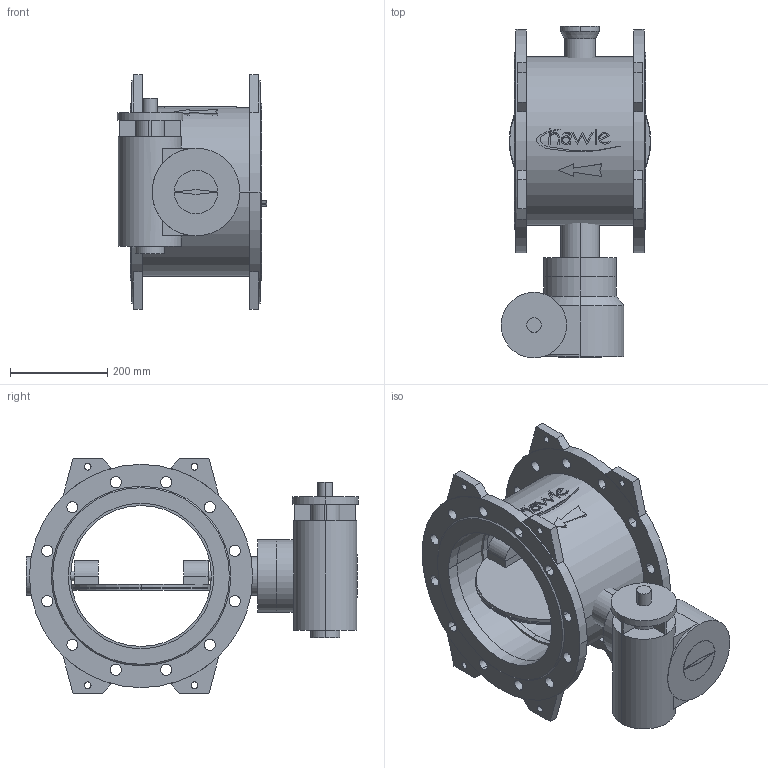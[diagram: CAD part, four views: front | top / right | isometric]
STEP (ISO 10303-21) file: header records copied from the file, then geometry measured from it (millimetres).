
FILE_DESCRIPTION(('STEP AP214'),'1');
FILE_NAME('S:/EK/USER/CAT6/3DHomepage_27-04-2012/neu_08-01-2013/9881K/9881K_PN10_DN300.STP','2013-02-26T15:33:19',(' '),(' '),'Spatial InterOp 3D',' ',' ');
FILE_SCHEMA(('automotive_design'));
Length unit declared in the file: millimetre
Products named in the file (46): 3D-Objekt
Bounding box: 308.5 x 684 x 484 mm (x, y, z)
Volume: 19257921.2 mm3; surface area: 1872038.2 mm2
Topology: 46 solids, 46 shells, 369 faces, 820 edges, 546 vertices
Faces by surface type: plane 196, cylinder 165, cone 8
Entity records: 14616 total; most frequent: DIRECTION 2000, CARTESIAN_POINT 1906, ORIENTED_EDGE 1640, EDGE_CURVE 820, AXIS2_PLACEMENT_3D 766, VERTEX_POINT 546, LINE 468, VECTOR 468
